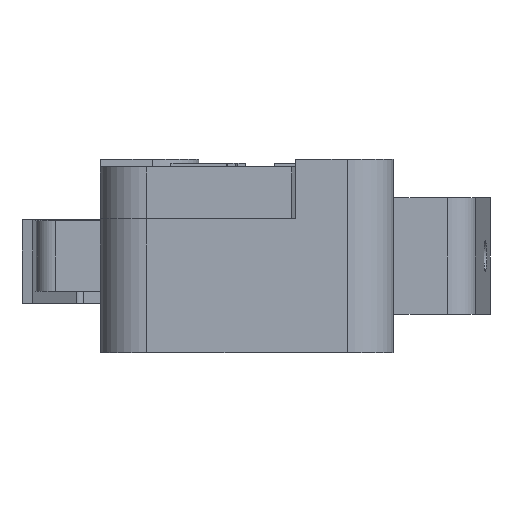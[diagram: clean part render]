
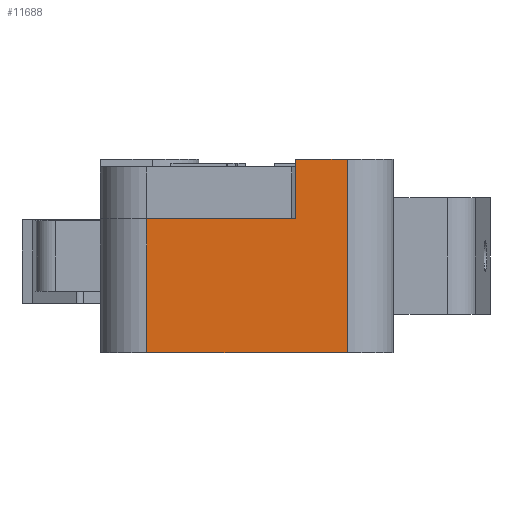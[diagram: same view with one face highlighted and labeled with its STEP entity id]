
A CAD part, left-side view. The second image highlights one B-rep face of the part: STEP entity #11688.
In plain terms, the highlighted planar face has unit normal (-1, 0, 0).
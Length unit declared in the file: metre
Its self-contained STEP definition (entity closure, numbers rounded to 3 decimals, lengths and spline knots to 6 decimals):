
#11547=CARTESIAN_POINT('',(-0.027238,-0.017123,0.033313));
#11548=VERTEX_POINT('',#11547);
#11582=CARTESIAN_POINT('',(-0.027238,-0.014323,0.033313));
#11583=VERTEX_POINT('',#11582);
#11586=CARTESIAN_POINT('',(-0.027238,-0.014323,0.033313));
#11587=DIRECTION('',(0.,-1.,0.));
#11588=VECTOR('',#11587,1.);
#11589=LINE('',#11586,#11588);
#11590=EDGE_CURVE('',#11583,#11548,#11589,.T.);
#11619=CARTESIAN_POINT('',(-0.027238,-0.017123,0.022913));
#11620=VERTEX_POINT('',#11619);
#11632=CARTESIAN_POINT('',(-0.027238,-0.017123,0.033313));
#11633=DIRECTION('',(0.,0.,-1.));
#11634=VECTOR('',#11633,1.);
#11635=LINE('',#11632,#11634);
#11636=EDGE_CURVE('',#11548,#11620,#11635,.T.);
#11649=CARTESIAN_POINT('',(-0.027238,-0.014323,0.033313));
#11650=DIRECTION('',(1.,0.,0.));
#11651=DIRECTION('',(0.,1.,0.));
#11652=AXIS2_PLACEMENT_3D('',#11649,#11650,#11651);
#11653=PLANE('',#11652);
#11654=CARTESIAN_POINT('',(-0.027238,-0.014323,0.022913));
#11655=DIRECTION('',(0.,-1.,0.));
#11656=VECTOR('',#11655,1.);
#11657=LINE('',#11654,#11656);
#11658=CARTESIAN_POINT('',(-0.027238,-0.006323,0.022913));
#11659=VERTEX_POINT('',#11658);
#11660=EDGE_CURVE('',#11659,#11620,#11657,.T.);
#11661=ORIENTED_EDGE('',*,*,#11660,.T.);
#11662=ORIENTED_EDGE('',*,*,#11636,.F.);
#11663=ORIENTED_EDGE('',*,*,#11590,.F.);
#11664=CARTESIAN_POINT('',(-0.027238,-0.014323,0.033313));
#11665=DIRECTION('',(0.,0.,-1.));
#11666=VECTOR('',#11665,1.);
#11667=LINE('',#11664,#11666);
#11668=CARTESIAN_POINT('',(-0.027238,-0.014323,0.030113));
#11669=VERTEX_POINT('',#11668);
#11670=EDGE_CURVE('',#11583,#11669,#11667,.T.);
#11671=ORIENTED_EDGE('',*,*,#11670,.T.);
#11672=CARTESIAN_POINT('',(-0.027238,-0.011723,0.030113));
#11673=DIRECTION('',(0.,-1.,0.));
#11674=VECTOR('',#11673,1.);
#11675=LINE('',#11672,#11674);
#11676=CARTESIAN_POINT('',(-0.027238,-0.006323,0.030113));
#11677=VERTEX_POINT('',#11676);
#11678=EDGE_CURVE('',#11677,#11669,#11675,.T.);
#11679=ORIENTED_EDGE('',*,*,#11678,.F.);
#11680=CARTESIAN_POINT('',(-0.027238,-0.006323,0.030113));
#11681=DIRECTION('',(0.,0.,-1.));
#11682=VECTOR('',#11681,1.);
#11683=LINE('',#11680,#11682);
#11684=EDGE_CURVE('',#11677,#11659,#11683,.T.);
#11685=ORIENTED_EDGE('',*,*,#11684,.T.);
#11686=EDGE_LOOP('',(#11661,#11662,#11663,#11671,#11679,#11685));
#11687=FACE_BOUND('',#11686,.T.);
#11688=ADVANCED_FACE('',(#11687),#11653,.F.);
